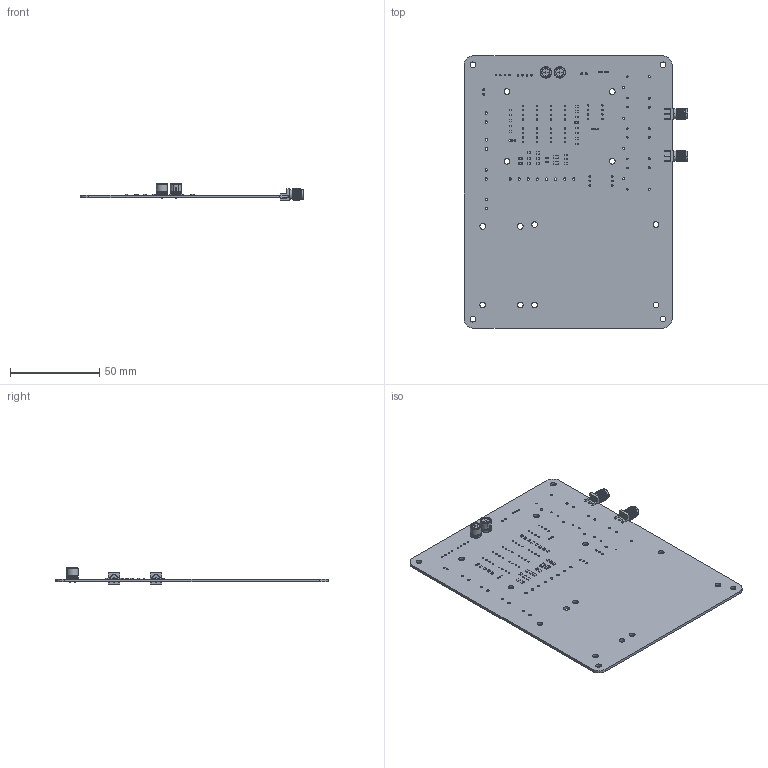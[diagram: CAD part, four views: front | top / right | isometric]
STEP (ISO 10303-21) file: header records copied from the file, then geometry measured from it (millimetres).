
FILE_DESCRIPTION(('KiCad electronic assembly'),'2;1');
FILE_NAME('.step','2026-05-12T19:57:02',('Pcbnew'),('Kicad'), 'Open CASCADE STEP processor 7.9','KiCad to STEP converter','Unknown' );
FILE_SCHEMA(('AUTOMOTIVE_DESIGN { 1 0 10303 214 1 1 1 1 }'));
Length unit declared in the file: millimetre
Products named in the file (8): .step 1; R_0603_1608Metric; R_0805_2012Metric; CP_Radial_D6.3mm_P2.50mm; R_1206_3216Metric; CON-SMA-EDGE-S; CON-SMA-EDGE-S_CON-SMA-EDGE-S; InstrumentV3_PCB
Assembly tree (34 placements, depth 3):
  .step 1
    R_0603_1608Metric  x17
    R_0805_2012Metric  x9
    CP_Radial_D6.3mm_P2.50mm  x2
    R_1206_3216Metric  x2
    CON-SMA-EDGE-S  x2
      CON-SMA-EDGE-S_CON-SMA-EDGE-S
    InstrumentV3_PCB
Bounding box: 125.42 x 152.5 x 9.1 mm (x, y, z)
Volume: 27383.5 mm3; surface area: 38540.7 mm2
Topology: 37 solids, 39 shells, 1107 faces, 2891 edges, 1876 vertices
Faces by surface type: plane 611, cylinder 442, cone 20, bspline 14, revolution 12, torus 4, sphere 4
Full cylindrical faces by diameter (mm): 0.5 x4, 0.7 x4, 0.78 x48, 0.8 x12, 0.85 x6, 1.02 x6, 1.05 x4, 1.2 x8, 1.3 x20, 3.2 x16
Entity records: 13982 total; most frequent: CARTESIAN_POINT 3657, DIRECTION 1968, ORIENTED_EDGE 1794, EDGE_CURVE 897, AXIS2_PLACEMENT_3D 760, FACE_BOUND 594, EDGE_LOOP 594, VERTEX_POINT 587
